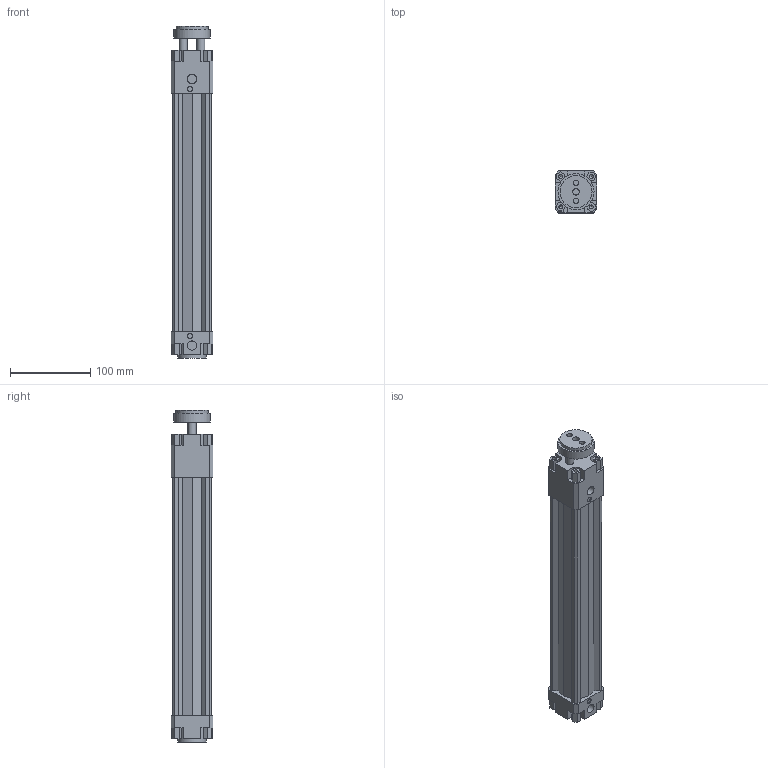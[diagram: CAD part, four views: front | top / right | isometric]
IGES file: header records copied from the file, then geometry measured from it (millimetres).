
Global section: file name: 134#_040_0250_01; native system: Autodesk Inventor 2014; preprocessor: unknown; author: A. Manieri; date: 20161006.164306; units: millimetre
Bounding box: 52 x 52 x 414 mm (x, y, z)
Volume: 539951.7 mm3; surface area: 169544.2 mm2
Topology: 2 solids, 2 shells, 180 faces, 492 edges, 336 vertices
Faces by surface type: bspline 180
